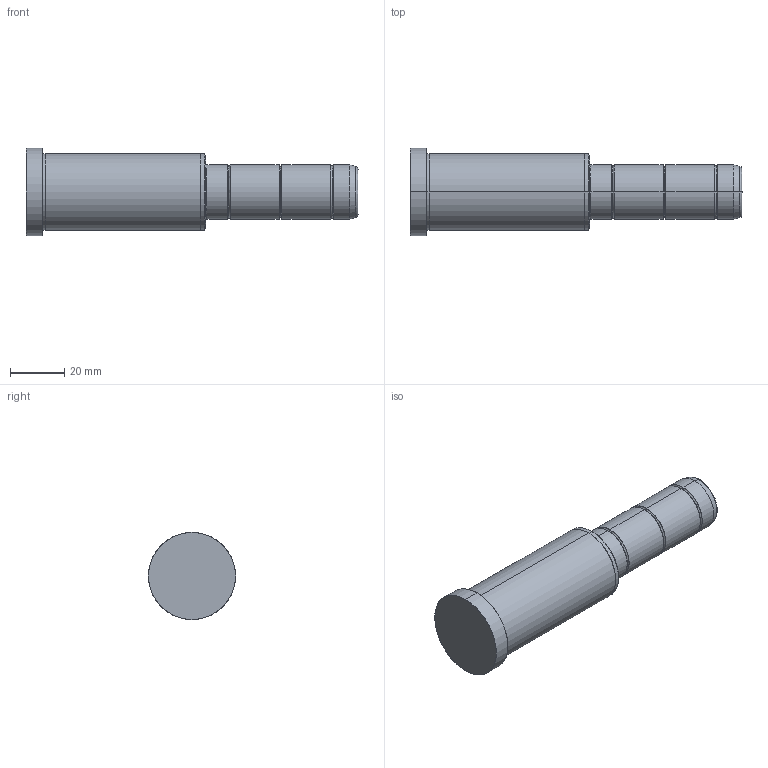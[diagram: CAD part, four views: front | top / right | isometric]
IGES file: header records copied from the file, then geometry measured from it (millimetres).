
Start section: SolidWorks IGES file using analytic representation for surfaces
Global section: file name: C:\Documents and Settings\kalite-mail\Desktop\IGS\D02\20\D02 - 20x66x56.IGS; native system: SolidWorks 2008; preprocessor: SolidWorks 2008; author: kalite-mail; date: 080616.163417; units: millimetre
Bounding box: 122 x 32 x 32 mm (x, y, z)
Surface area: 11009.2 mm2 (no closed solid volume)
Topology: 0 solids, 0 shells, 42 faces, 688 edges, 688 vertices
Faces by surface type: bspline 22, revolution 20
